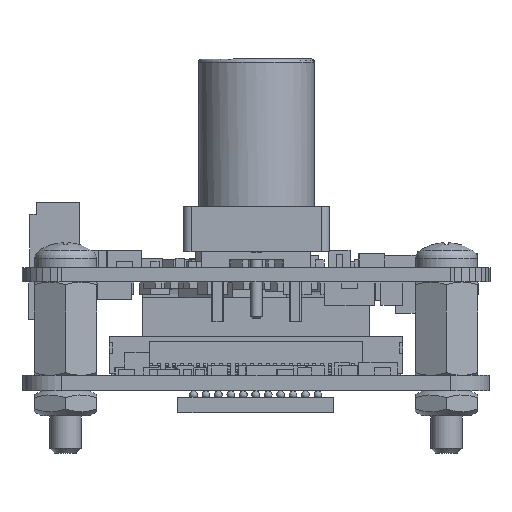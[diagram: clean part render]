
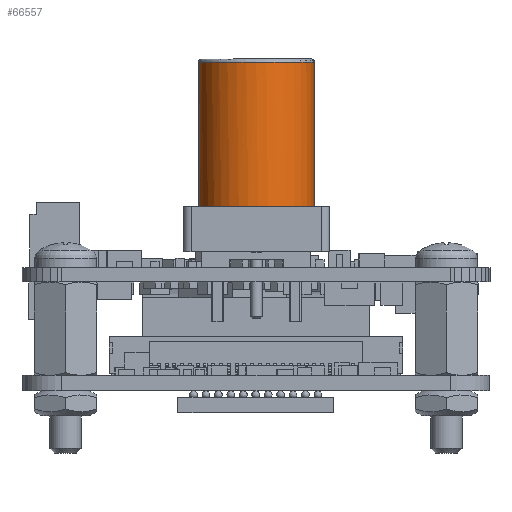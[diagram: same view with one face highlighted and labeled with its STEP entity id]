
A CAD part, front view. The second image highlights one B-rep face of the part: STEP entity #66557.
In plain terms, the highlighted cylindrical face has radius 3.725 mm (diameter 7.45 mm), a full revolution.
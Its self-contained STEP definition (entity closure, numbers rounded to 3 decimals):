
#10742=LINE('',#103560,#18755);
#10743=LINE('',#103563,#18756);
#18755=VECTOR('',#85570,1.);
#18756=VECTOR('',#85573,1.);
#22669=CYLINDRICAL_SURFACE('',#70673,3.725);
#23216=FACE_BOUND('',#30015,.T.);
#26213=FACE_OUTER_BOUND('',#30014,.T.);
#30014=EDGE_LOOP('',(#61567,#61568,#61569,#61570));
#30015=EDGE_LOOP('',(#61571));
#30989=CIRCLE('',#70674,3.725);
#30990=CIRCLE('',#70675,3.725);
#30991=CIRCLE('',#70676,3.725);
#36351=VERTEX_POINT('',#103556);
#36352=VERTEX_POINT('',#103557);
#36353=VERTEX_POINT('',#103559);
#36354=VERTEX_POINT('',#103561);
#36355=VERTEX_POINT('',#103564);
#44864=EDGE_CURVE('',#36351,#36352,#30989,.T.);
#44865=EDGE_CURVE('',#36352,#36353,#10742,.T.);
#44866=EDGE_CURVE('',#36353,#36354,#30990,.T.);
#44867=EDGE_CURVE('',#36354,#36351,#10743,.T.);
#44868=EDGE_CURVE('',#36355,#36355,#30991,.T.);
#61567=ORIENTED_EDGE('',*,*,#44864,.T.);
#61568=ORIENTED_EDGE('',*,*,#44865,.T.);
#61569=ORIENTED_EDGE('',*,*,#44866,.T.);
#61570=ORIENTED_EDGE('',*,*,#44867,.T.);
#61571=ORIENTED_EDGE('',*,*,#44868,.T.);
#66557=ADVANCED_FACE('',(#26213,#23216),#22669,.T.);
#70673=AXIS2_PLACEMENT_3D('',#103555,#85566,#85567);
#70674=AXIS2_PLACEMENT_3D('',#103558,#85568,#85569);
#70675=AXIS2_PLACEMENT_3D('',#103562,#85571,#85572);
#70676=AXIS2_PLACEMENT_3D('',#103565,#85574,#85575);
#85566=DIRECTION('center_axis',(0.,0.,1.));
#85567=DIRECTION('ref_axis',(1.,0.,0.));
#85568=DIRECTION('center_axis',(0.,0.,1.));
#85569=DIRECTION('ref_axis',(1.,0.,0.));
#85570=DIRECTION('',(0.,0.,1.));
#85571=DIRECTION('center_axis',(0.,0.,1.));
#85572=DIRECTION('ref_axis',(1.,0.,0.));
#85573=DIRECTION('',(0.,0.,-1.));
#85574=DIRECTION('center_axis',(0.,0.,-1.));
#85575=DIRECTION('ref_axis',(1.,0.,0.));
#103555=CARTESIAN_POINT('Origin',(15.024,5.75,3.913));
#103556=CARTESIAN_POINT('',(14.049,9.345,3.913));
#103557=CARTESIAN_POINT('',(15.999,9.345,3.914));
#103558=CARTESIAN_POINT('Origin',(15.024,5.75,3.913));
#103559=CARTESIAN_POINT('',(15.997,9.345,8.864));
#103560=CARTESIAN_POINT('',(15.999,9.345,3.914));
#103561=CARTESIAN_POINT('',(14.047,9.345,8.863));
#103562=CARTESIAN_POINT('Origin',(15.022,5.75,8.863));
#103563=CARTESIAN_POINT('',(14.049,9.345,3.913));
#103564=CARTESIAN_POINT('',(18.746,5.75,13.215));
#103565=CARTESIAN_POINT('Origin',(15.021,5.75,13.213));
